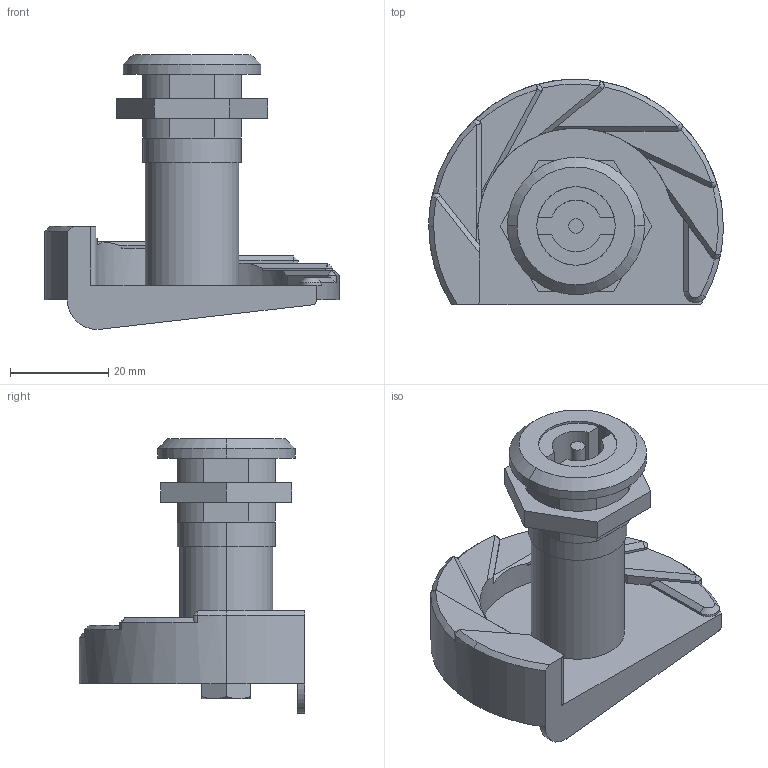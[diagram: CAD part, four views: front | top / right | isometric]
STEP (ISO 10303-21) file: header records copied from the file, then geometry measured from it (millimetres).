
FILE_DESCRIPTION (( 'STEP AP214' ), '1' );
FILE_NAME ('119-VDE-A4-NI.step', '2025-07-04T07:07:56', ( '' ), ( '' ), 'SwSTEP 2.0', 'SolidWorks 2022', '' );
FILE_SCHEMA (( 'AUTOMOTIVE_DESIGN' ));
Length unit declared in the file: millimetre
Products named in the file (3): WB119_Sechskantmutter^WB119; 119-VDE-A4-NI; WB119_Verriegelung^WB119_VDE_A4_32_40-NI
Assembly tree (2 placements, depth 2):
  119-VDE-A4-NI
    WB119_Verriegelung^WB119_VDE_A4_32_40-NI
    WB119_Sechskantmutter^WB119
Bounding box: 60 x 46 x 56 mm (x, y, z)
Volume: 27608.1 mm3; surface area: 12692.8 mm2
Topology: 2 solids, 2 shells, 135 faces, 337 edges, 206 vertices
Faces by surface type: plane 66, cylinder 43, cone 26
Entity records: 4141 total; most frequent: CARTESIAN_POINT 821, DIRECTION 699, ORIENTED_EDGE 660, EDGE_CURVE 330, AXIS2_PLACEMENT_3D 258, VERTEX_POINT 206, LINE 183, VECTOR 183
